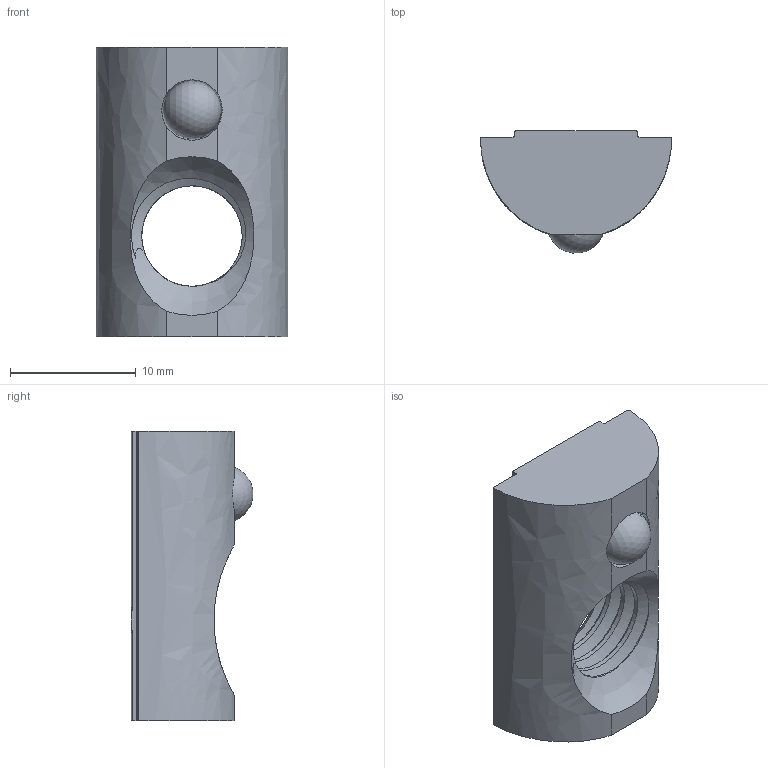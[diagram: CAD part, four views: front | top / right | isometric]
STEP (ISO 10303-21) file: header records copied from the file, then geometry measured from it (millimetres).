
FILE_DESCRIPTION (( 'STEP AP214' ), '1' );
FILE_NAME ('5062.STEP', '2026-08-28T08:32:49', ( 'Àëåêñåé' ), ( '' ), 'SwSTEP 2.0', 'SolidWorks 2022', '' );
FILE_SCHEMA (( 'AUTOMOTIVE_DESIGN' ));
Length unit declared in the file: millimetre
Products named in the file (1): 5062
Bounding box: 15.2 x 9.68 x 23.01 mm (x, y, z)
Volume: 1785.1 mm3; surface area: 1378.3 mm2
Topology: 13 solids, 13 shells, 140 faces, 347 edges, 225 vertices
Faces by surface type: plane 85, bspline 43, cylinder 9, sphere 2, cone 1
Entity records: 8884 total; most frequent: CARTESIAN_POINT 4286, ORIENTED_EDGE 674, DIRECTION 471, EDGE_CURVE 337, VERTEX_POINT 222, LINE 219, VECTOR 219, UNCERTAINTY_MEASURE_WITH_UNIT 149
